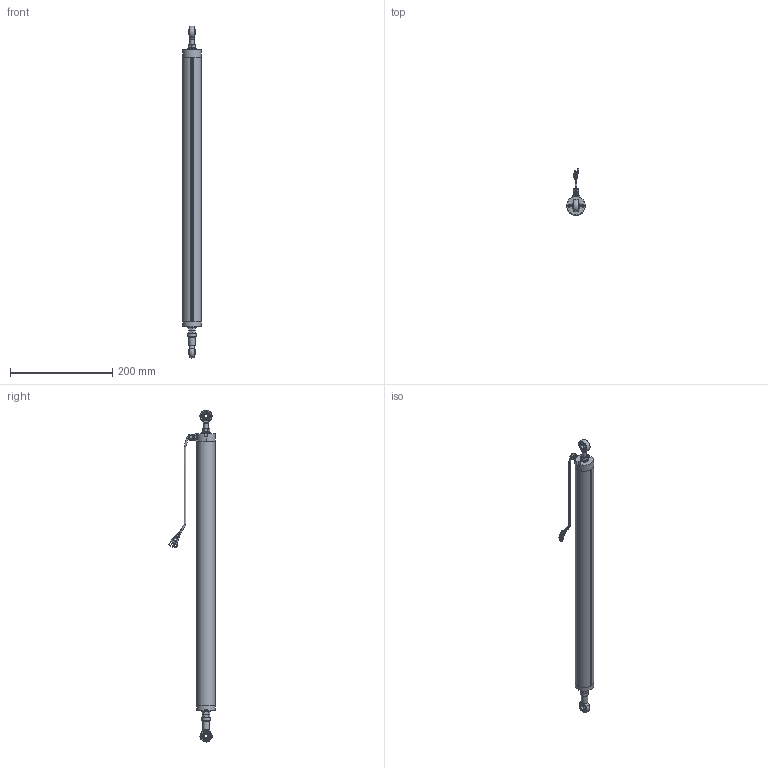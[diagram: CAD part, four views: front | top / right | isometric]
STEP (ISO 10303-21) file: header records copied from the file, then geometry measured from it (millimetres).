
FILE_DESCRIPTION(/* description */ (''),/* implementation_level */ '2;1');
FILE_NAME(/* name */ 'C:\Users\Justin\Documents\CAD\The Sensor Connection\LPPS\LPPS-36B Series\3D\LPPS-36B-450\LPPS 36B-450 Assembly.stp',/* time_stamp */ '2020-09-17T15:08:57-04:00',/* author */ ('Justin'),/* organization */ (''),/* preprocessor_version */ 'ST-DEVELOPER v18.1',/* originating_system */ 'Autodesk Inventor 2021',/* authorisation */ '');
FILE_SCHEMA (('AUTOMOTIVE_DESIGN { 1 0 10303 214 3 1 1 }'));
Length unit declared in the file: inch
Products named in the file (3): LPPS 36B-450 Assembly; LPPS 36B-450 Shaft_Shrinkwrap; LPPS 36B-450_Shrinkwrap
Assembly tree (2 placements, depth 2):
  LPPS 36B-450 Assembly
    LPPS 36B-450 Shaft_Shrinkwrap
    LPPS 36B-450_Shrinkwrap
Bounding box: 36.05 x 90.87 x 649.86 mm (x, y, z)
Volume: 195383.6 mm3; surface area: 162813.4 mm2
Topology: 27 solids, 27 shells, 1058 faces, 2601 edges, 1671 vertices
Faces by surface type: plane 468, cylinder 257, bspline 195, torus 73, cone 60, sphere 5
Full cylindrical faces by diameter (mm): 1.236 x3, 2.5 x2, 3 x6, 3.175 x3, 3.5 x5, 3.708 x1, 5 x3, 5.5 x1, 6 x2, 6.647 x1, 7 x3, 8 x11, 8.1 x1, 8.4 x1, 9 x1, 10 x1, 11 x1, 12.5 x1, 15 x4, 15.8 x1, 16 x1, 18.5 x3, 36 x1
Entity records: 37573 total; most frequent: CARTESIAN_POINT 12081, ORIENTED_EDGE 5202, DIRECTION 4715, EDGE_CURVE 2601, AXIS2_PLACEMENT_3D 1782, VERTEX_POINT 1671, EDGE_LOOP 1175, LINE 1151
